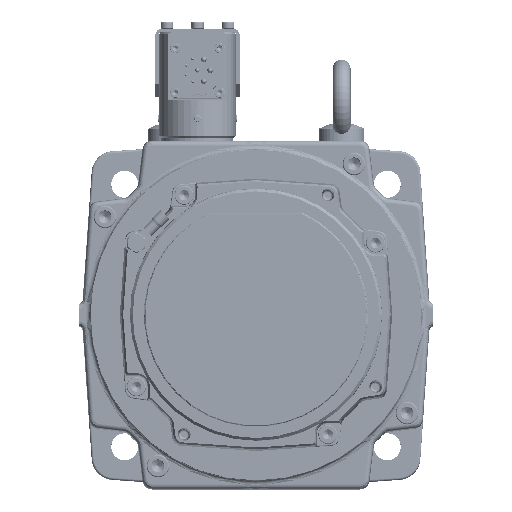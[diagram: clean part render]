
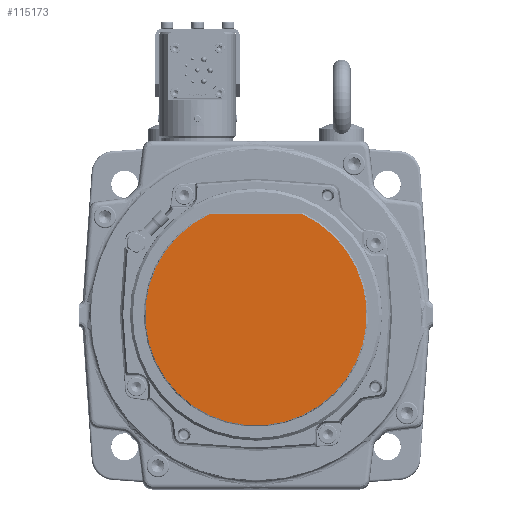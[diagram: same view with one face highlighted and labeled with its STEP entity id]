
A CAD part, top view. The second image highlights one B-rep face of the part: STEP entity #115173.
In plain terms, the highlighted planar face has unit normal (0, 0, 1).
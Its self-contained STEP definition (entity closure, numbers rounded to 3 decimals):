
#106674=CARTESIAN_POINT('',(0.,0.,63.9));
#106675=DIRECTION('',(0.,0.,-1.));
#106676=DIRECTION('',(0.418,0.908,0.));
#106677=AXIS2_PLACEMENT_3D('',#106674,#106675,#106676);
#106686=DIRECTION('',(-1.,0.,0.));
#106687=VECTOR('',#106686,41.125);
#106688=CARTESIAN_POINT('',(20.562,44.7,63.9));
#106689=LINE('',#106688,#106687);
#107364=CARTESIAN_POINT('',(20.562,44.7,63.9));
#107365=CARTESIAN_POINT('',(-20.562,44.7,63.9));
#107366=VERTEX_POINT('',#107364);
#107367=VERTEX_POINT('',#107365);
#115164=CARTESIAN_POINT('',(0.,0.,63.9));
#115165=DIRECTION('',(0.,0.,1.));
#115166=DIRECTION('',(1.,0.,0.));
#115167=AXIS2_PLACEMENT_3D('',#115164,#115165,#115166);
#115168=PLANE('',#115167);
#115169=ORIENTED_EDGE('',*,*,#115143,.T.);
#115170=ORIENTED_EDGE('',*,*,#115155,.F.);
#115171=EDGE_LOOP('',(#115169,#115170));
#115172=FACE_OUTER_BOUND('',#115171,.F.);
#115173=ADVANCED_FACE('',(#115172),#115168,.T.);
#106678=CIRCLE('',#106677,49.203);
#115143=EDGE_CURVE('',#107366,#107367,#106678,.T.);
#115155=EDGE_CURVE('',#107366,#107367,#106689,.T.);
